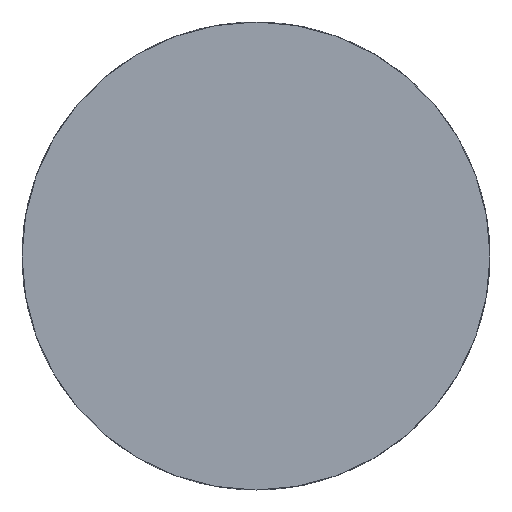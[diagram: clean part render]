
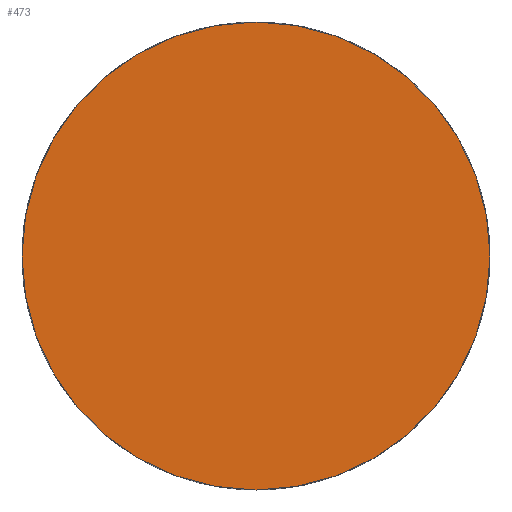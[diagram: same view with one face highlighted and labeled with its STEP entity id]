
A CAD part, left-side view. The second image highlights one B-rep face of the part: STEP entity #473.
In plain terms, the highlighted planar face has unit normal (-1, 0, 0).
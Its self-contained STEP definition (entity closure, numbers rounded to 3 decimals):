
#473 = ADVANCED_FACE( '', ( #995 ), #996, .F. );
#995 = FACE_OUTER_BOUND( '', #1564, .T. );
#996 = PLANE( '', #1565 );
#1564 = EDGE_LOOP( '', ( #3038 ) );
#1565 = AXIS2_PLACEMENT_3D( '', #3039, #3040, #3041 );
#3038 = ORIENTED_EDGE( '', *, *, #4231, .F. );
#3039 = CARTESIAN_POINT( '', ( 0., 0., 0. ) );
#3040 = DIRECTION( '', ( 1., 0., 0. ) );
#3041 = DIRECTION( '', ( 0., 0., -1. ) );
#4231 = EDGE_CURVE( '', #5331, #5331, #5332, .T. );
#5331 = VERTEX_POINT( '', #6730 );
#5332 = CIRCLE( '', #6731, 10.6 );
#6730 = CARTESIAN_POINT( '', ( 0., 0., -10.6 ) );
#6731 = AXIS2_PLACEMENT_3D( '', #7823, #7824, #7825 );
#7823 = CARTESIAN_POINT( '', ( 0., 0., 0. ) );
#7824 = DIRECTION( '', ( 1., 0., 0. ) );
#7825 = DIRECTION( '', ( 0., 0., -1. ) );
